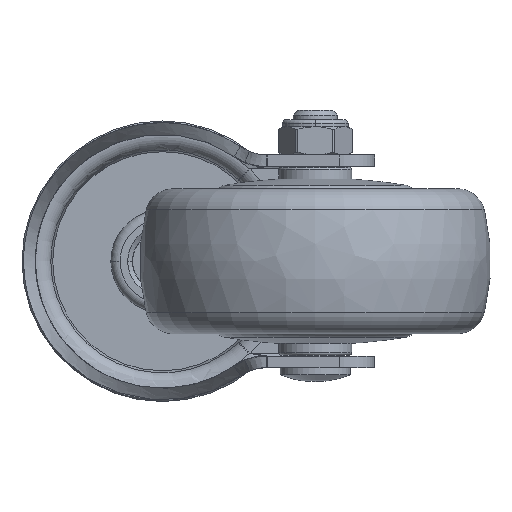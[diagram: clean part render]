
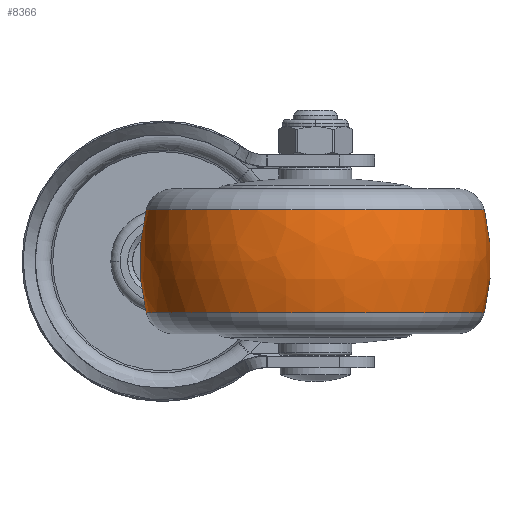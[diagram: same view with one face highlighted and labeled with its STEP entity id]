
A CAD part, front view. The second image highlights one B-rep face of the part: STEP entity #8366.
In plain terms, the highlighted free-form (B-spline) face has degree [3, 3] with [7, 4] control points.
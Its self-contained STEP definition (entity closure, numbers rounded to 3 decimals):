
#7675=CARTESIAN_POINT('',(-10.962,0.,0.));
#7676=DIRECTION('',(-1.,0.,0.));
#7677=DIRECTION('',(0.,1.,0.));
#7678=AXIS2_PLACEMENT_3D('',#7675,#7676,#7677);
#7690=CARTESIAN_POINT('',(0.,-7.5,0.));
#7691=DIRECTION('',(0.,0.,1.));
#7692=DIRECTION('',(0.244,0.97,0.));
#7693=AXIS2_PLACEMENT_3D('',#7690,#7691,#7692);
#7695=CARTESIAN_POINT('',(0.,7.5,0.));
#7696=DIRECTION('',(0.,0.,-1.));
#7697=DIRECTION('',(0.244,-0.97,0.));
#7698=AXIS2_PLACEMENT_3D('',#7695,#7696,#7697);
#7700=CARTESIAN_POINT('',(10.962,0.,0.));
#7701=DIRECTION('',(-1.,0.,0.));
#7702=DIRECTION('',(0.,1.,0.));
#7703=AXIS2_PLACEMENT_3D('',#7700,#7701,#7702);
#7940=CARTESIAN_POINT('',(10.962,36.145,0.));
#7942=VERTEX_POINT('',#7940);
#7943=CARTESIAN_POINT('',(-10.962,36.145,0.));
#7944=VERTEX_POINT('',#7943);
#7988=CARTESIAN_POINT('',(10.962,-36.145,0.));
#7990=VERTEX_POINT('',#7988);
#7991=CARTESIAN_POINT('',(-10.962,-36.145,0.));
#7992=VERTEX_POINT('',#7991);
#8330=CARTESIAN_POINT('',(-11.391,-35.963,
2.263));
#8331=CARTESIAN_POINT('',(-3.881,-37.924,
2.386));
#8332=CARTESIAN_POINT('',(3.881,-37.924,2.386));
#8333=CARTESIAN_POINT('',(11.391,-35.963,2.263));
#8334=CARTESIAN_POINT('',(-11.391,-37.356,
-19.869));
#8335=CARTESIAN_POINT('',(-3.881,-39.393,
-20.953));
#8336=CARTESIAN_POINT('',(3.881,-39.393,
-20.953));
#8337=CARTESIAN_POINT('',(11.391,-37.356,
-19.869));
#8338=CARTESIAN_POINT('',(-11.391,-22.176,
-36.035));
#8339=CARTESIAN_POINT('',(-3.881,-23.385,
-37.999));
#8340=CARTESIAN_POINT('',(3.881,-23.385,
-37.999));
#8341=CARTESIAN_POINT('',(11.391,-22.176,
-36.035));
#8342=CARTESIAN_POINT('',(-11.391,0.,-36.035));
#8343=CARTESIAN_POINT('',(-3.881,0.,-37.999));
#8344=CARTESIAN_POINT('',(3.881,0.,-37.999));
#8345=CARTESIAN_POINT('',(11.391,0.,-36.035));
#8346=CARTESIAN_POINT('',(-11.391,22.176,
-36.035));
#8347=CARTESIAN_POINT('',(-3.881,23.385,
-37.999));
#8348=CARTESIAN_POINT('',(3.881,23.385,-37.999));
#8349=CARTESIAN_POINT('',(11.391,22.176,-36.035));
#8350=CARTESIAN_POINT('',(-11.391,37.356,
-19.869));
#8351=CARTESIAN_POINT('',(-3.881,39.393,
-20.953));
#8352=CARTESIAN_POINT('',(3.881,39.393,-20.953));
#8353=CARTESIAN_POINT('',(11.391,37.356,-19.869));
#8354=CARTESIAN_POINT('',(-11.391,35.963,2.263));
#8355=CARTESIAN_POINT('',(-3.881,37.924,2.386));
#8356=CARTESIAN_POINT('',(3.881,37.924,2.386));
#8357=CARTESIAN_POINT('',(11.391,35.963,2.263));
#8358=(BOUNDED_SURFACE()B_SPLINE_SURFACE(3,3,((#8330,#8331,#8332,#8333),(#8334,
#8335,#8336,#8337),(#8338,#8339,#8340,#8341),(#8342,#8343,#8344,#8345),(#8346,
#8347,#8348,#8349),(#8350,#8351,#8352,#8353),(#8354,#8355,#8356,#8357)),
.UNSPECIFIED.,.F.,.F.,.F.)B_SPLINE_SURFACE_WITH_KNOTS((4,3,4),(4,4),(0.,1.,
2.),(0.,1.),.UNSPECIFIED.)GEOMETRIC_REPRESENTATION_ITEM()RATIONAL_B_SPLINE_SURFACE(((1.207,1.181,1.181,1.207),(
0.953,0.932,0.932,0.953),(
0.953,0.932,0.932,0.953),(
1.207,1.181,1.181,1.207),(
0.953,0.932,0.932,0.953),(
0.953,0.932,0.932,0.953),(
1.207,1.181,1.181,1.207)))REPRESENTATION_ITEM('')SURFACE());
#8359=ORIENTED_EDGE('',*,*,#8320,.T.);
#8360=ORIENTED_EDGE('',*,*,#8273,.T.);
#8361=ORIENTED_EDGE('',*,*,#8324,.F.);
#8363=ORIENTED_EDGE('',*,*,#8362,.F.);
#8364=EDGE_LOOP('',(#8359,#8360,#8361,#8363));
#8365=FACE_OUTER_BOUND('',#8364,.F.);
#7679=CIRCLE('',#7678,36.145);
#7694=CIRCLE('',#7693,45.);
#7699=CIRCLE('',#7698,45.);
#7704=CIRCLE('',#7703,36.145);
#8273=EDGE_CURVE('',#7944,#7992,#7679,.T.);
#8320=EDGE_CURVE('',#7942,#7944,#7694,.T.);
#8324=EDGE_CURVE('',#7990,#7992,#7699,.T.);
#8362=EDGE_CURVE('',#7942,#7990,#7704,.T.);
#8366=ADVANCED_FACE('',(#8365),#8358,.T.);
